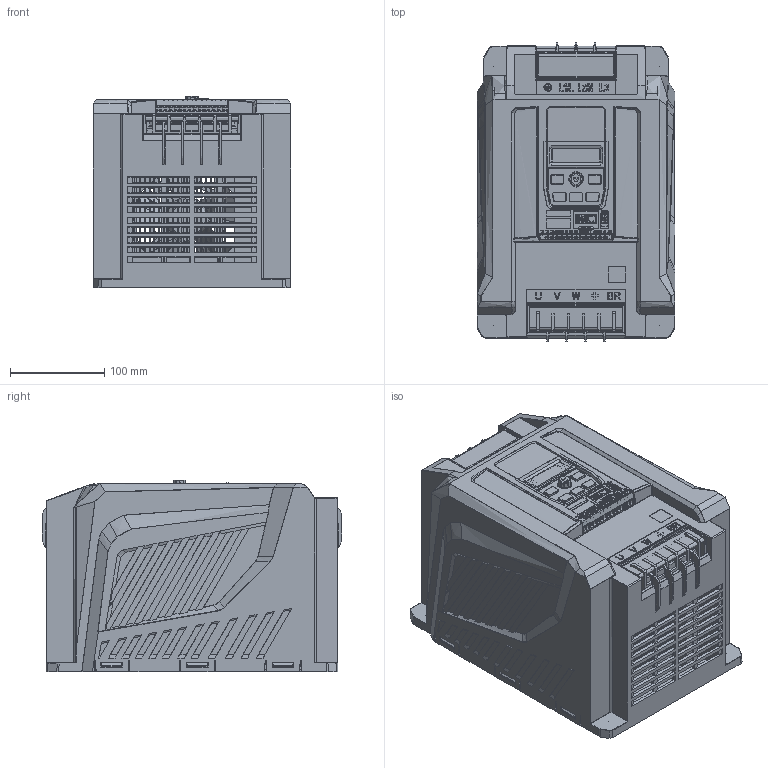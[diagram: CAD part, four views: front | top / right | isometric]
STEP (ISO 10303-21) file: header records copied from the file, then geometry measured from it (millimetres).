
FILE_DESCRIPTION(('STEP AP203'), '1');
FILE_NAME('NCI-G18.5_P22-4B _ Ïðåîáðàçîâàòåëü ÷àñòîòû', '2026-01-21T08:20:43', (' '), (' '), 'C3D Converter', 'C3D Toolkit', '');
FILE_SCHEMA(('CONFIG_CONTROL_DESIGN'));
Length unit declared in the file: millimetre
Products named in the file (1): NCI-G18.5/P22-4B
Bounding box: 210 x 318 x 203.79 mm (x, y, z)
Volume: 2516343 mm3; surface area: 2459394.6 mm2
Topology: 137 solids, 153 shells, 14235 faces, 37897 edges, 24772 vertices
Faces by surface type: plane 9917, cylinder 1935, bspline 877, extrusion 829, cone 408, torus 204, sphere 65
Full cylindrical faces by diameter (mm): 0.47 x5, 0.5 x102, 0.8 x2, 0.9 x8, 1 x28, 1.2 x6, 1.3 x2, 1.4 x16, 1.5 x10, 2 x11, 2.25 x2, 2.3 x2, 3 x14, 3.1 x15, 3.3 x4, 3.5 x9, 3.571 x4, 3.7 x5, 4.1 x30, 4.2 x16, 4.3 x4, 4.5 x12, 5 x36, 5.5 x8, 6 x19, 6.1 x9, 6.2 x5, 6.4 x9, 6.8 x1, 7.011 x1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
Entity records: 673114 total; most frequent: CARTESIAN_POINT 222215, ORIENTED_EDGE 74045, DIRECTION 59381, EDGE_CURVE 37029, VECTOR 27203, LINE 26374, VERTEX_POINT 24712, EDGE_LOOP 16275
